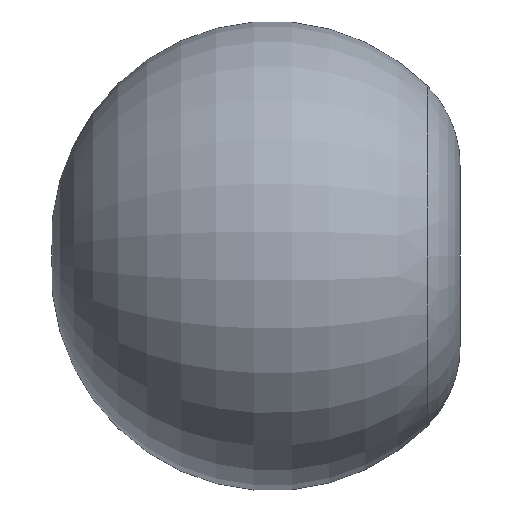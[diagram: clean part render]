
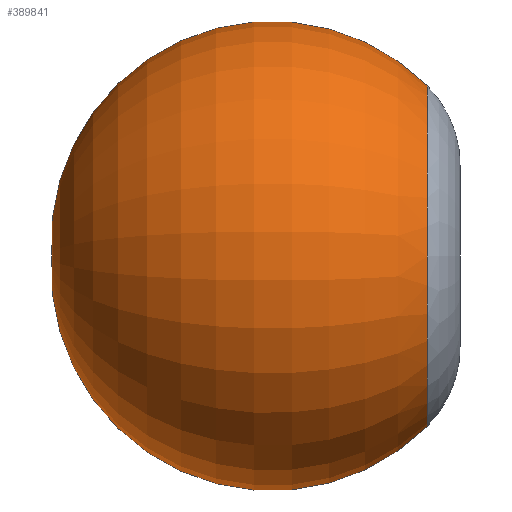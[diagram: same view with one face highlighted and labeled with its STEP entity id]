
A CAD part, left-side view. The second image highlights one B-rep face of the part: STEP entity #389841.
In plain terms, the highlighted toroidal (fillet/blend) face has major radius 50 mm and minor radius 759.17 mm.
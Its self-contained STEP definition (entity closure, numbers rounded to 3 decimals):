
#3030 = AXIS2_PLACEMENT_3D ( 'NONE', #248512, #52239, #539648 ) ;
#23511 = EDGE_CURVE ( 'NONE', #54951, #261466, #241742, .T. ) ;
#47035 = VERTEX_POINT ( 'NONE', #271305 ) ;
#52239 = DIRECTION ( 'NONE',  ( 0., -1., 0. ) ) ;
#54951 = VERTEX_POINT ( 'NONE', #124408 ) ;
#73912 = TOROIDAL_SURFACE ( 'NONE', #3030, 50., 759.17 ) ;
#124408 = CARTESIAN_POINT ( 'NONE',  ( 0., 1122.522, 0. ) ) ;
#133017 = DIRECTION ( 'NONE',  ( 0., 0., -1. ) ) ;
#133990 = AXIS2_PLACEMENT_3D ( 'NONE', #367315, #275515, #133017 ) ;
#190091 = DIRECTION ( 'NONE',  ( 0., 0., 1. ) ) ;
#204160 = CARTESIAN_POINT ( 'NONE',  ( 0., -171.814, -586.814 ) ) ;
#241742 = CIRCLE ( 'NONE', #605410, 759.17 ) ;
#248512 = CARTESIAN_POINT ( 'NONE',  ( 0., 365., 0. ) ) ;
#252280 = DIRECTION ( 'NONE',  ( 0., -1., 0. ) ) ;
#261466 = VERTEX_POINT ( 'NONE', #204160 ) ;
#271305 = CARTESIAN_POINT ( 'NONE',  ( 0., -171.814, 586.814 ) ) ;
#275515 = DIRECTION ( 'NONE',  ( 1., 0., 0. ) ) ;
#281950 = CARTESIAN_POINT ( 'NONE',  ( 0., 365., -50. ) ) ;
#350311 = DIRECTION ( 'NONE',  ( 0., 0., -1. ) ) ;
#355823 = AXIS2_PLACEMENT_3D ( 'NONE', #410215, #252280, #350311 ) ;
#367315 = CARTESIAN_POINT ( 'NONE',  ( 0., 365., 50. ) ) ;
#380017 = DIRECTION ( 'NONE',  ( -1., 0., 0. ) ) ;
#389841 = ADVANCED_FACE ( 'NONE', ( #473449 ), #73912, .T. ) ;
#410215 = CARTESIAN_POINT ( 'NONE',  ( 0., -171.814, 0. ) ) ;
#417292 = CIRCLE ( 'NONE', #133990, 759.17 ) ;
#467687 = EDGE_CURVE ( 'NONE', #54951, #47035, #417292, .T. ) ;
#473449 = FACE_OUTER_BOUND ( 'NONE', #569776, .T. ) ;
#529907 = ORIENTED_EDGE ( 'NONE', *, *, #467687, .F. ) ;
#533315 = ORIENTED_EDGE ( 'NONE', *, *, #23511, .T. ) ;
#538081 = ORIENTED_EDGE ( 'NONE', *, *, #586419, .F. ) ;
#539648 = DIRECTION ( 'NONE',  ( 0., 0., -1. ) ) ;
#547876 = CIRCLE ( 'NONE', #355823, 586.814 ) ;
#569776 = EDGE_LOOP ( 'NONE', ( #529907, #533315, #538081 ) ) ;
#586419 = EDGE_CURVE ( 'NONE', #47035, #261466, #547876, .T. ) ;
#605410 = AXIS2_PLACEMENT_3D ( 'NONE', #281950, #380017, #190091 ) ;
